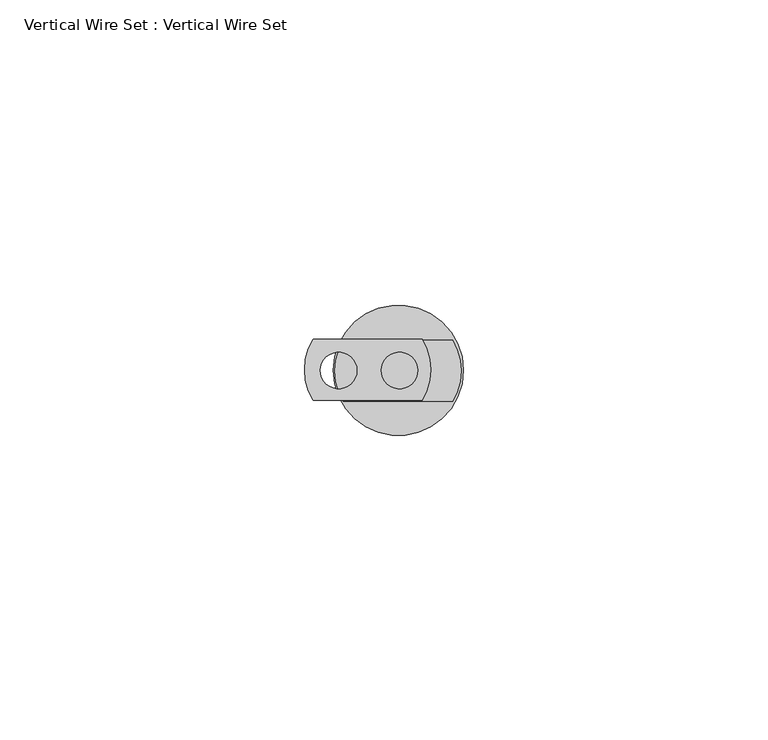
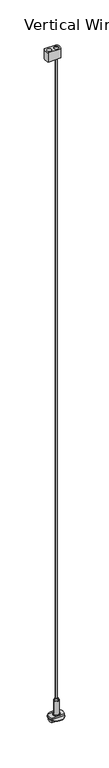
"""IFC4 building model written with IfcOpenShell, lengths in millimetres: proxy geometry, Vertical Wire Set : Vertical Wire Set."""

from ifc_helpers import new_model, si_unit, point, frame, frame_2d, origin, origin_with_axes, place, context, project, spatial, polyline, circle_curve, trimmed, segment, composite_curve, outline, extrude, source, transform, mapped, element, save


def vertical_wire_set_vertical_wire_set_3cbeecf8(model_context):
    return source(origin(), model_context, "Body", "SweptSolid", [
        extrude(outline(composite_curve([segment(polyline([(-408.6260848, 4.093637), (-391.8573632, 4.093637)]), True, "CONTINUOUS"), segment(trimmed(circle_curve(frame_2d((-399.5177315, 0.093637)), 8.6418309), [point((-391.8573632, 4.093637))], [point((-391.8573632, -3.906363))], False, "CARTESIAN"), True, "CONTINUOUS"), segment(polyline([(-391.8573632, -3.906363), (-408.6260848, -3.906363)]), True, "CONTINUOUS"), segment(trimmed(circle_curve(frame_2d((-400.9657166, 0.093637)), 8.6418309), [point((-408.6260848, -3.906363))], [point((-408.6260848, 4.093637))], False, "CARTESIAN"), True, "CONTINUOUS")], self_intersect=False)), frame((0.0, 0.0, -4.3497354), z_axis=(0.0, 0.0, 1.0), x_axis=(1.0, 0.0, 0.0)), (0.0, 0.0, 1.0), 4.3497354),
        extrude(outline(composite_curve([segment(trimmed(circle_curve(frame_2d((-399.8937048, -0.0343928)), 2.0419802), [point((-401.935685, -0.0343928))], [point((-397.8517245, -0.0343928))], False, "CARTESIAN"), True, "CONTINUOUS"), segment(trimmed(circle_curve(frame_2d((-399.8937048, -0.0343928)), 2.0419802), [point((-397.8517245, -0.0343928))], [point((-401.935685, -0.0343928))], False, "CARTESIAN"), True, "CONTINUOUS")], self_intersect=False)), frame((0.0, 0.0, 24.5), z_axis=(0.0, 0.0, 1.0), x_axis=(1.0, 0.0, 0.0)), (0.0, 0.0, 1.0), 3.0),
        extrude(outline(composite_curve([segment(trimmed(circle_curve(frame_2d((-399.6848592, 0.1995827)), 3.5260169), [point((-403.2108761, 0.1995827))], [point((-396.1588422, 0.1995827))], False, "CARTESIAN"), True, "CONTINUOUS"), segment(trimmed(circle_curve(frame_2d((-399.6848592, 0.1995827)), 3.5260169), [point((-396.1588422, 0.1995827))], [point((-403.2108761, 0.1995827))], False, "CARTESIAN"), True, "CONTINUOUS")], self_intersect=False)), frame((0.0, 0.0, 4.5), z_axis=(0.0, 0.0, 1.0), x_axis=(1.0, 0.0, 0.0)), (0.0, 0.0, 1.0), 20.0),
        extrude(outline(composite_curve([segment(trimmed(circle_curve(frame_2d((-399.8307849, 0.1038802)), 4.6190623), [point((-404.4498471, 0.1038802))], [point((-395.2117226, 0.1038802))], False, "CARTESIAN"), True, "CONTINUOUS"), segment(trimmed(circle_curve(frame_2d((-399.8307849, 0.1038802)), 4.6190623), [point((-395.2117226, 0.1038802))], [point((-404.4498471, 0.1038802))], False, "CARTESIAN"), True, "CONTINUOUS")], self_intersect=False)), frame((0.0, 0.0, 3.5), z_axis=(0.0, 0.0, 1.0), x_axis=(1.0, 0.0, 0.0)), (0.0, 0.0, 1.0), 1.0),
        extrude(outline(composite_curve([segment(trimmed(circle_curve(frame_2d((-400.2064846, 0.1848983)), 10.6943727), [point((-410.9008572, 0.1848983))], [point((-389.5121119, 0.1848983))], False, "CARTESIAN"), True, "CONTINUOUS"), segment(trimmed(circle_curve(frame_2d((-400.2064846, 0.1848983)), 10.6943727), [point((-389.5121119, 0.1848983))], [point((-410.9008572, 0.1848983))], False, "CARTESIAN"), True, "CONTINUOUS")], self_intersect=False)), origin_with_axes(), (0.0, 0.0, 1.0), 1.0),
        extrude(outline(composite_curve([segment(trimmed(circle_curve(frame_2d((-399.5177315, 0.093637)), 9.6418309), [point((-391.2736485, 5.093637))], [point((-391.2736485, -4.906363))], False, "CARTESIAN"), True, "CONTINUOUS"), segment(polyline([(-391.2736485, -4.906363), (-409.2097995, -4.906363)]), True, "CONTINUOUS"), segment(trimmed(circle_curve(frame_2d((-400.9657166, 0.093637)), 9.6418309), [point((-409.2097995, -4.906363))], [point((-409.2097995, 5.093637))], False, "CARTESIAN"), True, "CONTINUOUS"), segment(polyline([(-409.2097995, 5.093637), (-391.2736485, 5.093637)]), True, "CONTINUOUS")], self_intersect=False)), frame((0.0, 0.0, 1.0), z_axis=(0.0, 0.0, 1.0), x_axis=(1.0, 0.0, 0.0)), (0.0, 0.0, 1.0), 2.5),
        extrude(outline(composite_curve([segment(trimmed(circle_curve(frame_2d((-400.0, 0.0)), 3.0), [point((-397.0, 0.0))], [point((-403.0, 0.0))], False, "CARTESIAN"), True, "CONTINUOUS"), segment(trimmed(circle_curve(frame_2d((-400.0, 0.0)), 3.0), [point((-403.0, 0.0))], [point((-397.0, 0.0))], False, "CARTESIAN"), True, "CONTINUOUS")], self_intersect=False)), frame((0.0, 0.0, 986.4786049), z_axis=(0.0, 0.0, 1.0), x_axis=(1.0, 0.0, 0.0)), (0.0, 0.0, 1.0), 12.3321774),
        extrude(outline(composite_curve([segment(trimmed(circle_curve(frame_2d((-404.5177315, 0.093637)), 9.6418309), [point((-396.2736485, 5.093637))], [point((-396.2736485, -4.906363))], False, "CARTESIAN"), True, "CONTINUOUS"), segment(polyline([(-396.2736485, -4.906363), (-414.2097995, -4.906363)]), True, "CONTINUOUS"), segment(trimmed(circle_curve(frame_2d((-405.9657166, 0.093637)), 9.6418309), [point((-414.2097995, -4.906363))], [point((-414.2097995, 5.093637))], False, "CARTESIAN"), True, "CONTINUOUS"), segment(polyline([(-414.2097995, 5.093637), (-396.2736485, 5.093637)]), True, "CONTINUOUS")], self_intersect=False), holes=[composite_curve([segment(trimmed(circle_curve(frame_2d((-400.0, 0.0)), 3.0), [point((-403.0, 0.0))], [point((-397.0, 0.0))], True, "CARTESIAN"), True, "CONTINUOUS"), segment(trimmed(circle_curve(frame_2d((-400.0, 0.0)), 3.0), [point((-397.0, 0.0))], [point((-403.0, 0.0))], True, "CARTESIAN"), True, "CONTINUOUS")], self_intersect=False), composite_curve([segment(trimmed(circle_curve(frame_2d((-410.0, 0.0)), 3.0), [point((-413.0, 0.0))], [point((-407.0, 0.0))], True, "CARTESIAN"), True, "CONTINUOUS"), segment(trimmed(circle_curve(frame_2d((-410.0, 0.0)), 3.0), [point((-407.0, 0.0))], [point((-413.0, 0.0))], True, "CARTESIAN"), True, "CONTINUOUS")], self_intersect=False)]), frame((0.0, 0.0, 986.4786049), z_axis=(0.0, 0.0, 1.0), x_axis=(1.0, 0.0, 0.0)), (0.0, 0.0, 1.0), 13.5213951),
        extrude(outline(composite_curve([segment(trimmed(circle_curve(frame_2d((-400.0, 0.0)), 1.0), [point((-401.0, 0.0))], [point((-399.0, 0.0))], False, "CARTESIAN"), True, "CONTINUOUS"), segment(trimmed(circle_curve(frame_2d((-400.0, 0.0)), 1.0), [point((-399.0, 0.0))], [point((-401.0, 0.0))], False, "CARTESIAN"), True, "CONTINUOUS")], self_intersect=False)), frame((0.0, 0.0, -1.3501137), z_axis=(0.0, 0.0, 1.0), x_axis=(1.0, 0.0, 0.0)), (0.0, 0.0, 1.0), 987.8287187),
    ])


if __name__ == "__main__":
    model = new_model("IFC4")
    model_context = context("Model", 3, world=origin())
    ifc_project = project(units=[si_unit("LENGTHUNIT", "METRE", prefix="MILLI")], contexts=[model_context])
    site = spatial("IfcSite", under=ifc_project)
    building = spatial("IfcBuilding", under=site)
    placement = place(None, origin())
    vertical_wire_set_vertical_wire_set_shape = vertical_wire_set_vertical_wire_set_3cbeecf8(model_context)
    element("IfcBuildingElementProxy", 1, Name="Vertical Wire Set : Vertical Wire Set", ObjectType="Vertical Wire Set : Vertical Wire Set", at=placement, inside=building, context=model_context, shape_type="MappedRepresentation", body=[
        mapped(vertical_wire_set_vertical_wire_set_shape, transform((0.0, 0.0, 0.0), x_axis=(1.0, 0.0, 0.0), y_axis=(0.0, 1.0, 0.0), z_axis=(0.0, 0.0, 1.0))),
    ])
    save(model, "model.ifc")
